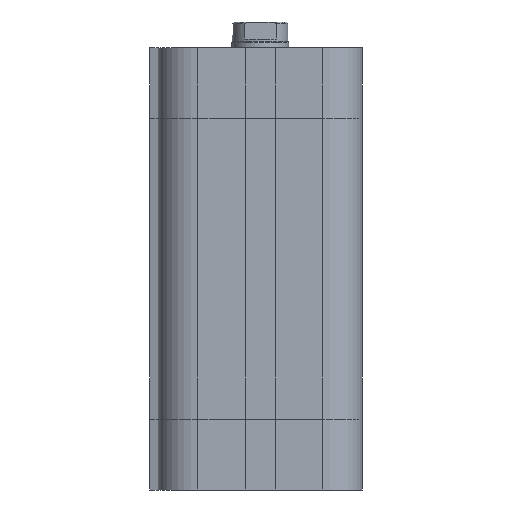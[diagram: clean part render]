
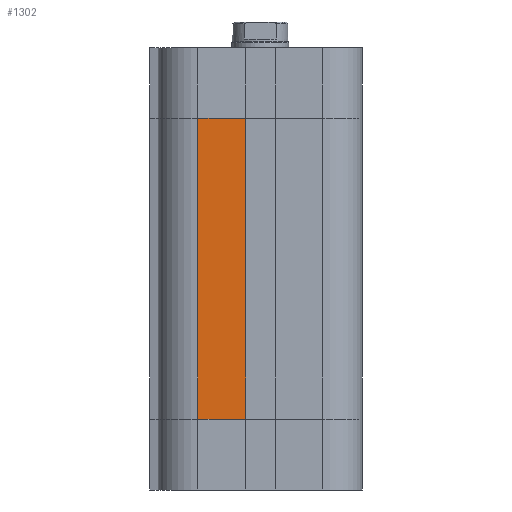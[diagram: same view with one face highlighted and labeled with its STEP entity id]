
A CAD part, left-side view. The second image highlights one B-rep face of the part: STEP entity #1302.
In plain terms, the highlighted planar face has unit normal (-1, 0, 0).
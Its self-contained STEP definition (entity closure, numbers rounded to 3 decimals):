
#1213=CARTESIAN_POINT('',(-18.,11.0,12.5));
#1214=VERTEX_POINT('',#1213);
#1222=CARTESIAN_POINT('',(-18.,11.0,65.5));
#1223=VERTEX_POINT('',#1222);
#1224=CARTESIAN_POINT('',(-18.,11.0,12.5));
#1225=DIRECTION('',(0.0,0.0,1.0));
#1226=VECTOR('',#1225,53.0);
#1227=LINE('',#1224,#1226);
#1228=EDGE_CURVE('',#1214,#1223,#1227,.T.);
#1272=CARTESIAN_POINT('',(-18.0,2.6,0.0));
#1273=DIRECTION('',(-1.0,0.0,0.0));
#1274=DIRECTION('',(0.0,0.0,1.0));
#1275=AXIS2_PLACEMENT_3D('',#1272,#1273,#1274);
#1276=PLANE('',#1275);
#1277=CARTESIAN_POINT('',(-18.0,2.6,12.5));
#1278=VERTEX_POINT('',#1277);
#1279=CARTESIAN_POINT('',(-18.,11.0,12.5));
#1280=DIRECTION('',(0.0,-1.0,0.0));
#1281=VECTOR('',#1280,8.4);
#1282=LINE('',#1279,#1281);
#1283=EDGE_CURVE('',#1214,#1278,#1282,.T.);
#1284=ORIENTED_EDGE('',*,*,#1283,.T.);
#1285=CARTESIAN_POINT('',(-18.0,2.6,65.5));
#1286=VERTEX_POINT('',#1285);
#1287=CARTESIAN_POINT('',(-18.0,2.6,12.5));
#1288=DIRECTION('',(0.0,0.0,1.0));
#1289=VECTOR('',#1288,53.0);
#1290=LINE('',#1287,#1289);
#1291=EDGE_CURVE('',#1278,#1286,#1290,.T.);
#1292=ORIENTED_EDGE('',*,*,#1291,.T.);
#1293=CARTESIAN_POINT('',(-18.,11.0,65.5));
#1294=DIRECTION('',(0.0,-1.0,0.0));
#1295=VECTOR('',#1294,8.4);
#1296=LINE('',#1293,#1295);
#1297=EDGE_CURVE('',#1223,#1286,#1296,.T.);
#1298=ORIENTED_EDGE('',*,*,#1297,.F.);
#1299=ORIENTED_EDGE('',*,*,#1228,.F.);
#1300=EDGE_LOOP('',(#1284,#1292,#1298,#1299));
#1301=FACE_OUTER_BOUND('',#1300,.T.);
#1302=ADVANCED_FACE('',(#1301),#1276,.T.);
